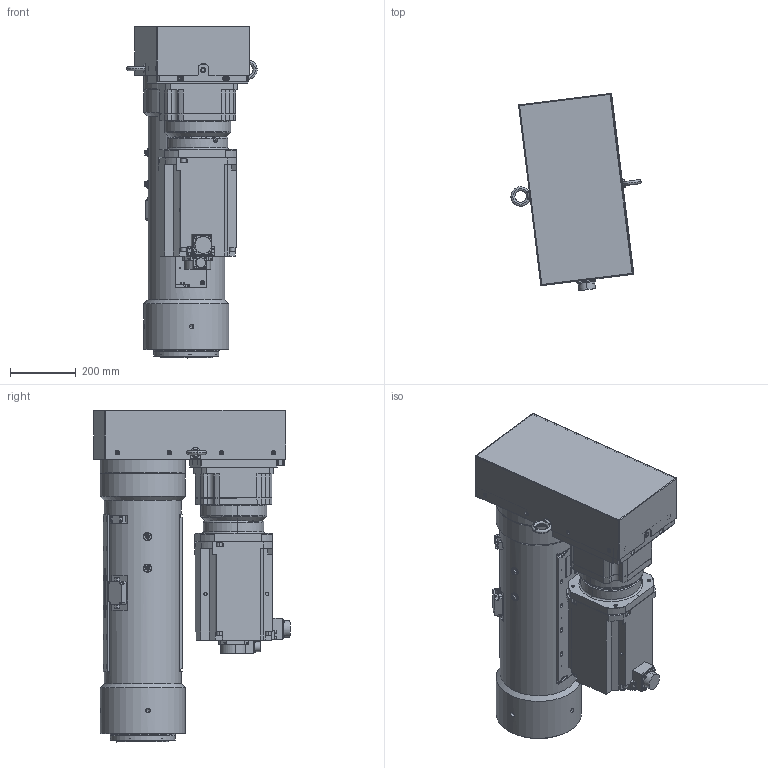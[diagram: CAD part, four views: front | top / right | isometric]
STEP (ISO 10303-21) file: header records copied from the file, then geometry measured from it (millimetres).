
FILE_DESCRIPTION( ('This file contains a STEP AP42 implementation' ,'as created by ZW3D STEP Interface translator.') ,'2;1' );
FILE_NAME( 'OACIS-DC-P300-400-100_V20.01.stp' ,'25 3 8.102010', (''), ('ZWCAD Software Co.'), 'Version 1.0', 'ZW3D to STEP translator', '' );
FILE_SCHEMA(('AUTOMOTIVE_DESIGN { 1 0 10303 214 1 1 1 1 }'));
Length unit declared in the file: millimetre
Products named in the file (2): 0; OACIS-DC-P300-400-100_V20.01
Bounding box: 397.87 x 601.2 x 1013.26 mm (x, y, z)
Volume: 66310409.7 mm3; surface area: 5023343.4 mm2
Topology: 25 solids, 52 shells, 2292 faces, 5730 edges, 3632 vertices
Faces by surface type: cylinder 954, plane 859, cone 368, torus 71, bspline 37, sphere 3
Full cylindrical faces by diameter (mm): 4 x6, 4.2 x36, 4.3 x11, 4.5 x4, 5 x24, 5.3 x6, 5.5 x6, 6 x12, 6.4 x22, 6.8 x34, 8 x4, 8.5 x12, 9 x2, 10 x8, 10.2 x24, 10.5 x4, 12 x1, 13 x30, 14 x71, 16 x2, 16.5 x4, 17.5 x24, 18 x6, 20 x12, 25.4 x2, 30 x2, 35 x2, 85 x1, 87 x1, 100 x1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
Entity records: 90888 total; most frequent: CARTESIAN_POINT 33907, DIRECTION 11100, ORIENTED_EDGE 11078, EDGE_CURVE 5575, AXIS2_PLACEMENT_3D 4087, VERTEX_POINT 3630, VECTOR 2926, LINE 2926
